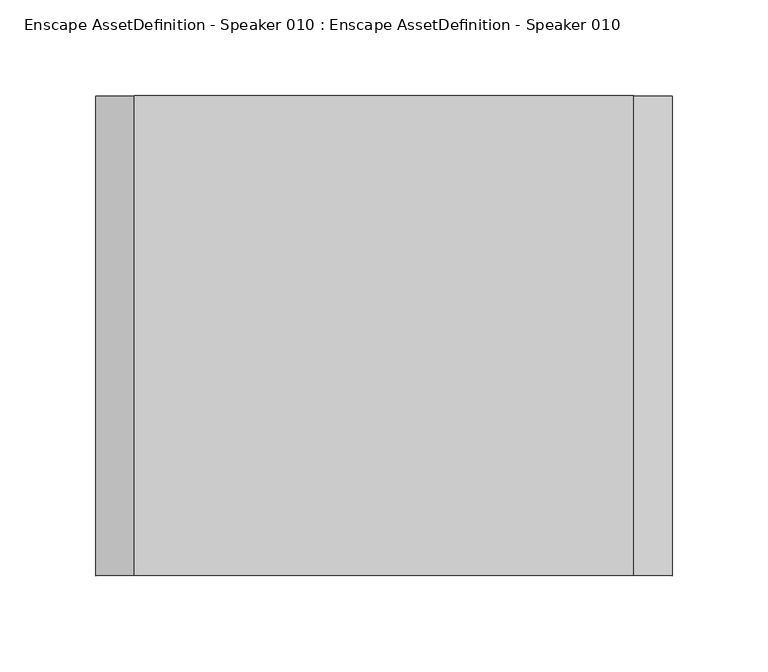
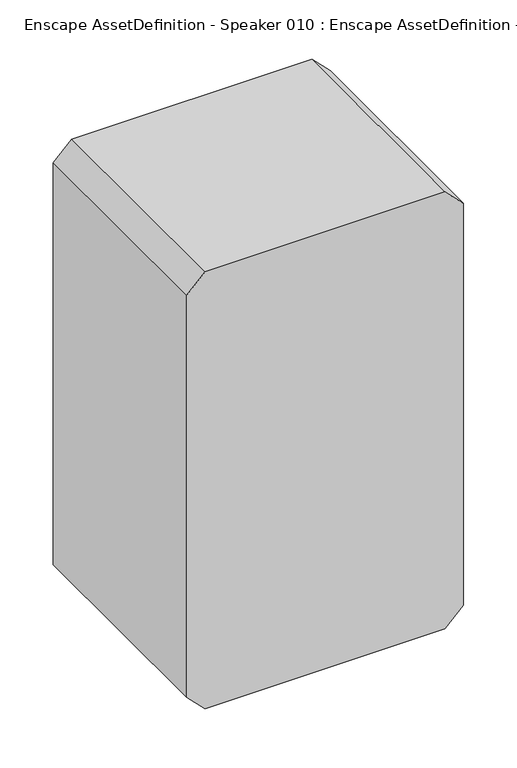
"""IFC4 building model written with IfcOpenShell, lengths in millimetres: geographic element geometry, Enscape AssetDefinition - Speaker 010 : Enscape AssetDefinition - Speaker 010."""

from ifc_helpers import new_model, si_unit, origin, place, context, project, spatial, triangles, source, transform, mapped, element, save


def enscape_assetdefinition_speaker_010_enscape_assetdefinition_e37c3e36(model_context):
    return source(origin(), model_context, "Body", "Tessellation", [
        triangles([(150.0000102, -125.000001, 19.9999988), (129.9999955, -125.000001, 0.0), (150.0000102, -125.000001, 479.9999891), (-129.9999955, -125.000001, 0.0), (129.9999955, 125.000001, 0.0), (-129.9999955, 125.000001, 0.0), (-150.0000102, -125.000001, 19.9999988), (-150.0000102, 125.000001, 19.9999988), (150.0000102, 125.000001, 19.9999988), (-150.0000102, 125.000001, 479.9999891), (-129.9999955, 125.000001, 500.0000038), (-129.9999955, -125.000001, 500.0000038), (-150.0000102, -125.000001, 479.9999891), (150.0000102, 125.000001, 479.9999891), (129.9999955, 125.000001, 500.0000038), (129.9999955, -125.000001, 500.0000038)], [[13, 7, 3], [16, 12, 3], [12, 13, 3], [11, 12, 15], [3, 15, 16], [15, 12, 16], [14, 15, 3], [15, 14, 10], [11, 15, 10], [13, 12, 10], [13, 10, 7], [10, 12, 11], [7, 10, 8], [14, 9, 10], [8, 10, 9], [14, 3, 9], [5, 6, 9], [6, 8, 9], [8, 6, 7], [7, 6, 4], [5, 2, 6], [6, 2, 4], [9, 2, 5], [4, 2, 7], [1, 2, 9], [9, 3, 1], [1, 3, 7], [2, 1, 7]]),
    ])


if __name__ == "__main__":
    model = new_model("IFC4")
    model_context = context("Model", 3, world=origin())
    ifc_project = project(units=[si_unit("LENGTHUNIT", "METRE", prefix="MILLI")], contexts=[model_context])
    site = spatial("IfcSite", under=ifc_project)
    building = spatial("IfcBuilding", under=site)
    placement = place(None, origin())
    enscape_assetdefinition_speaker_010_enscape_assetdefinition_shape = enscape_assetdefinition_speaker_010_enscape_assetdefinition_e37c3e36(model_context)
    element("IfcGeographicElement", 1, ObjectType="Enscape AssetDefinition - Speaker 010 : Enscape AssetDefinition - Speaker 010", at=placement, inside=building, context=model_context, shape_type="MappedRepresentation", body=[
        mapped(enscape_assetdefinition_speaker_010_enscape_assetdefinition_shape, transform((0.0, 0.0, 0.0), x_axis=(1.0, 0.0, 0.0), y_axis=(0.0, 1.0, 0.0), z_axis=(0.0, 0.0, 1.0))),
    ])
    save(model, "model.ifc")
